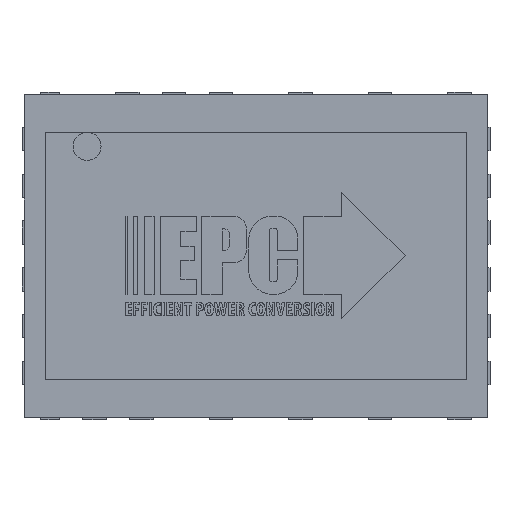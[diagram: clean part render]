
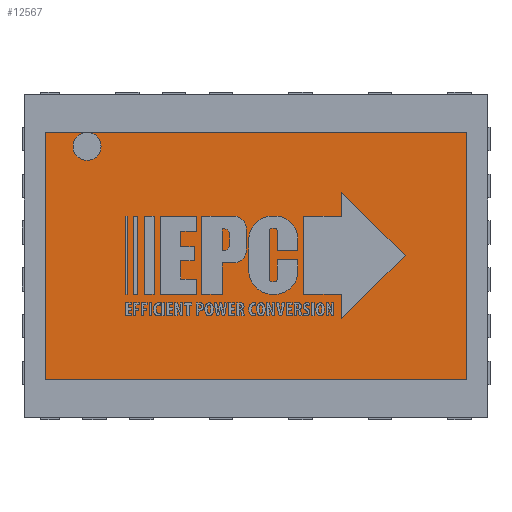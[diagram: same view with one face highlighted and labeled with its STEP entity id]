
A CAD part, top view. The second image highlights one B-rep face of the part: STEP entity #12567.
In plain terms, the highlighted planar face has unit normal (0, 0, 1).
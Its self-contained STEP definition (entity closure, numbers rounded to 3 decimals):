
#1432=FACE_OUTER_BOUND('',#2098,.T.);
#2098=EDGE_LOOP('',(#11365,#11366,#11367,#11368));
#3590=LINE('',#21556,#5090);
#3593=LINE('',#21562,#5093);
#3596=LINE('',#21568,#5096);
#3598=LINE('',#21571,#5098);
#5090=VECTOR('',#16604,1.);
#5093=VECTOR('',#16609,1.);
#5096=VECTOR('',#16614,1.);
#5098=VECTOR('',#16618,1.);
#6232=VERTEX_POINT('',#21550);
#6234=VERTEX_POINT('',#21554);
#6236=VERTEX_POINT('',#21560);
#6238=VERTEX_POINT('',#21566);
#7940=EDGE_CURVE('',#6232,#6234,#3590,.T.);
#7943=EDGE_CURVE('',#6234,#6236,#3593,.T.);
#7946=EDGE_CURVE('',#6236,#6238,#3596,.T.);
#7948=EDGE_CURVE('',#6238,#6232,#3598,.T.);
#11365=ORIENTED_EDGE('',*,*,#7940,.T.);
#11366=ORIENTED_EDGE('',*,*,#7943,.T.);
#11367=ORIENTED_EDGE('',*,*,#7946,.T.);
#11368=ORIENTED_EDGE('',*,*,#7948,.T.);
#11915=PLANE('',#13741);
#12567=ADVANCED_FACE('',(#1432),#11915,.F.);
#13741=AXIS2_PLACEMENT_3D('',#21573,#16621,#16622);
#16604=DIRECTION('',(1.,0.,0.));
#16609=DIRECTION('',(0.,1.,0.));
#16614=DIRECTION('',(-1.,0.,0.));
#16618=DIRECTION('',(0.,-1.,0.));
#16621=DIRECTION('center_axis',(0.,0.,-1.));
#16622=DIRECTION('ref_axis',(-1.,0.,0.));
#21550=CARTESIAN_POINT('',(-2.25,-1.321,0.55));
#21554=CARTESIAN_POINT('',(2.25,-1.321,0.55));
#21556=CARTESIAN_POINT('',(-2.25,-1.321,0.55));
#21560=CARTESIAN_POINT('',(2.25,1.321,0.55));
#21562=CARTESIAN_POINT('',(2.25,-1.321,0.55));
#21566=CARTESIAN_POINT('',(-2.25,1.321,0.55));
#21568=CARTESIAN_POINT('',(2.25,1.321,0.55));
#21571=CARTESIAN_POINT('',(-2.25,1.321,0.55));
#21573=CARTESIAN_POINT('Origin',(-2.25,-1.321,0.55));
